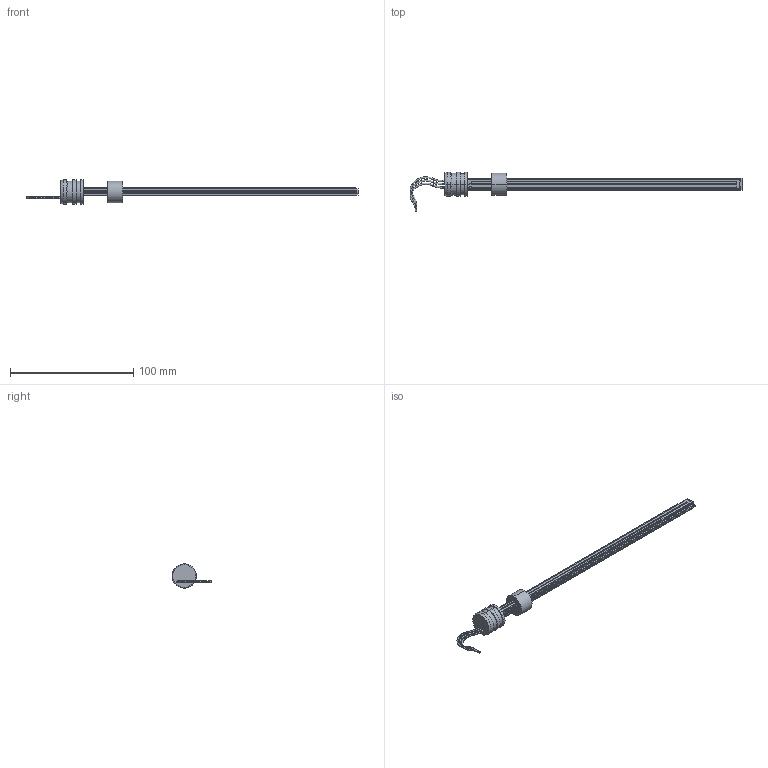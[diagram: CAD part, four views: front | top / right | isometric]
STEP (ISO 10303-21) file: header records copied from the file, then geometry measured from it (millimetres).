
FILE_DESCRIPTION (( 'STEP AP203' ), '1' );
FILE_NAME ('PS6504-regal.step', '2009-04-08T07:04:43', ( 'Gustaf Hederström' ), ( 'Cevican AB' ), 'SwSTEP 2.0', 'SolidWorks 2002308', '' );
FILE_SCHEMA (( 'CONFIG_CONTROL_DESIGN' ));
Length unit declared in the file: millimetre
Products named in the file (3): PS6504-regal; 30-0027_SW0002; WIPER6500-3
Assembly tree (2 placements, depth 2):
  PS6504-regal
    30-0027_SW0002
    WIPER6500-3
Bounding box: 269.62 x 32.31 x 19.7 mm (x, y, z)
Volume: 17782.7 mm3; surface area: 12012.6 mm2
Topology: 2 solids, 3 shells, 207 faces, 560 edges, 359 vertices
Faces by surface type: plane 92, cylinder 76, bspline 35, cone 4
Entity records: 8113 total; most frequent: CARTESIAN_POINT 2597, ORIENTED_EDGE 1120, DIRECTION 1082, EDGE_CURVE 560, AXIS2_PLACEMENT_3D 387, VERTEX_POINT 359, LINE 308, VECTOR 308
